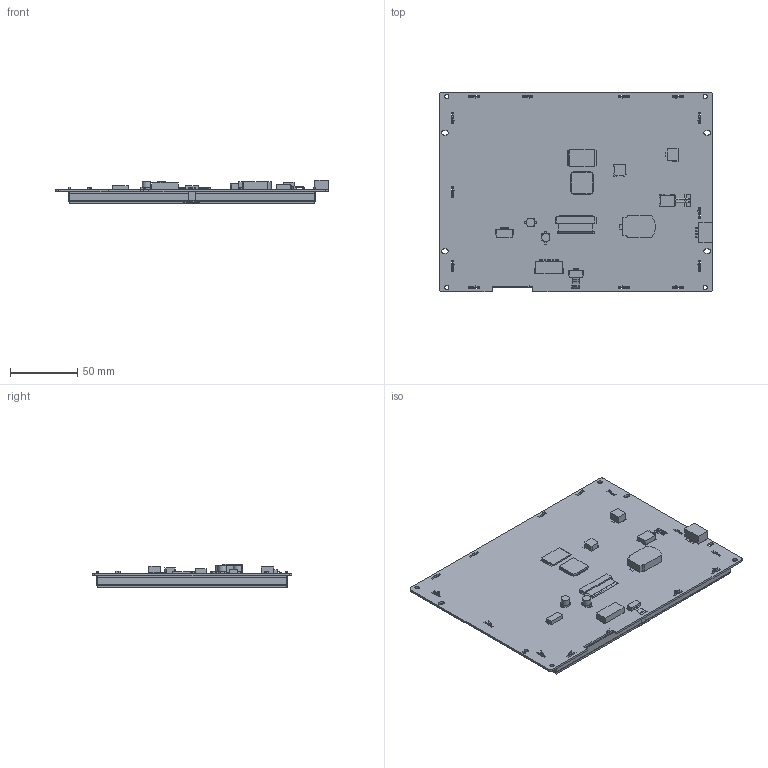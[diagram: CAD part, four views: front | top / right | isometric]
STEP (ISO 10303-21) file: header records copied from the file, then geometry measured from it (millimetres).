
FILE_DESCRIPTION(/* description */ (''),/* implementation_level */ '2;1');
FILE_NAME(/* name */ '3D_SDWe080Tx7T.stp',/* time_stamp */ '2020-09-28T09:04:03+08:00',/* author */ (''),/* organization */ (''),/* preprocessor_version */ 'ST-DEVELOPER v15',/* originating_system */ 'SIEMENS PLM Software NX 8.5',/* authorisation */ '');
FILE_SCHEMA (('AP203_CONFIGURATION_CONTROLLED_3D_DESIGN_OF_MECHANICAL_PARTS_AND_ASSEMBLIES_MIM_LF { 1 0 10303 403 2 1 2}'));
Length unit declared in the file: millimetre
Products named in the file (1): SDWe080Tx7
Bounding box: 203 x 148.8 x 17.41 mm (x, y, z)
Volume: 249468.9 mm3; surface area: 216087.6 mm2
Topology: 347 solids, 347 shells, 2310 faces, 4845 edges, 3229 vertices
Faces by surface type: plane 2191, cylinder 105, extrusion 10, torus 4
Full cylindrical faces by diameter (mm): 1 x6, 3.2 x4, 6.193 x2
Entity records: 64897 total; most frequent: CARTESIAN_POINT 10999, ORIENTED_EDGE 9634, DIRECTION 9547, EDGE_CURVE 4817, VECTOR 4529, LINE 4519, VERTEX_POINT 3223, AXIS2_PLACEMENT_3D 2509
